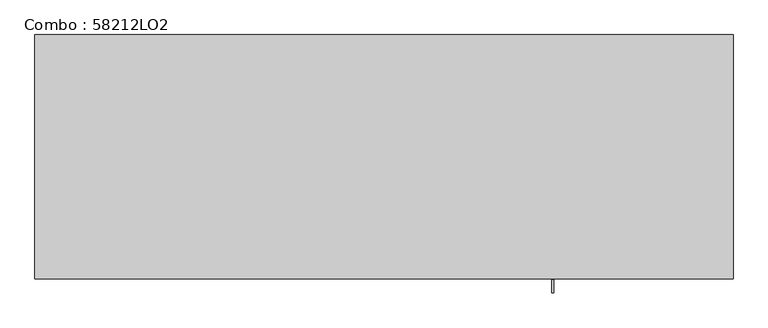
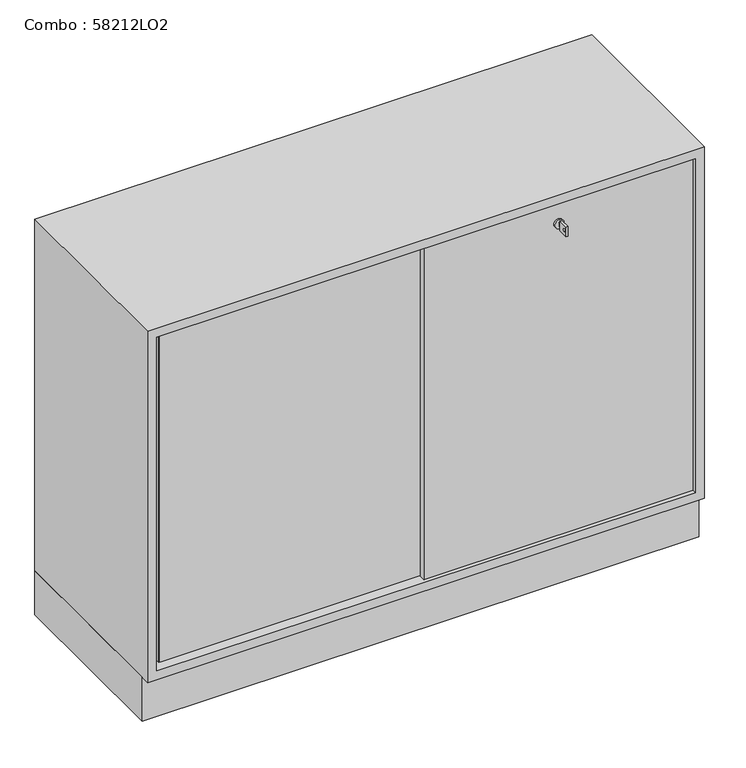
"""IFC4 building model written with IfcOpenShell, lengths in millimetres: furniture geometry, Combo : 58212LO2."""

from ifc_helpers import new_model, si_unit, point, frame, frame_2d, origin, origin_with_axes, place, context, project, spatial, polyline, circle_curve, trimmed, segment, composite_curve, outline, extrude, faceted_brep, source, transform, mapped, element, save


def combo_58212lo2_bfeb9648(model_context):
    return source(origin(), model_context, "Body", "SolidModel", [
        extrude(outline(polyline([(-600.0, -400.0), (-600.0, 0.0), (600.0, 0.0), (600.0, -400.0), (-600.0, -400.0)])), origin_with_axes(), (0.0, 0.0, 1.0), 100.0),
        extrude(outline(composite_curve([segment(trimmed(circle_curve(frame_2d((830.0, 290.0)), 10.0), [point((830.0, 280.0))], [point((830.0, 300.0))], False, "CARTESIAN"), True, "CONTINUOUS"), segment(trimmed(circle_curve(frame_2d((830.0, 290.0)), 10.0), [point((830.0, 300.0))], [point((830.0, 280.0))], False, "CARTESIAN"), True, "CONTINUOUS")], self_intersect=False)), frame((0.0, -416.0, 0.0), z_axis=(0.0, 1.0, 0.0), x_axis=(0.0, 0.0, 1.0)), (0.0, 0.0, 1.0), 4.0),
        extrude(outline(polyline([(-444.0, 819.014113), (-444.0, 841.0), (-422.0, 841.0), (-422.0, 819.014113), (-444.0, 819.014113)]), holes=[composite_curve([segment(trimmed(circle_curve(frame_2d((-437.75, 830.0070565)), 3.2230706), [point((-437.75, 833.2301271))], [point((-437.75, 826.7839859))], True, "CARTESIAN"), True, "CONTINUOUS"), segment(trimmed(circle_curve(frame_2d((-437.75, 830.0070565)), 3.2230706), [point((-437.75, 826.7839859))], [point((-437.75, 833.2301271))], True, "CARTESIAN"), True, "CONTINUOUS")], self_intersect=False)]), frame((288.0, 0.0, 0.0), z_axis=(1.0, 0.0, 0.0), x_axis=(0.0, 1.0, 0.0)), (0.0, 0.0, 1.0), 4.0416064),
        extrude(outline(polyline([(291.0416064, -422.0), (289.0, -422.0), (289.0, -416.0), (291.0416064, -416.0), (291.0416064, -422.0)])), frame((0.0, 0.0, 826.014113), z_axis=(0.0, 0.0, 1.0), x_axis=(1.0, 0.0, 0.0)), (0.0, 0.0, 1.0), 7.985887),
        extrude(outline(polyline([(-578.0478528, -398.0), (-580.0, -398.0), (-580.0, -386.0), (580.0, -386.0), (580.0, -412.0), (0.0, -412.0), (0.0, -400.0), (8.9521472, -400.0), (8.9521472, -398.0), (-561.0478528, -398.0), (-563.0478528, -398.0), (-563.0478528, -388.0), (-578.0478528, -388.0), (-578.0478528, -398.0)])), frame((0.0, 0.0, 120.0), z_axis=(0.0, 0.0, 1.0), x_axis=(1.0, 0.0, 0.0)), (0.0, 0.0, 1.0), 760.0),
        faceted_brep([(600.0, 0.0, 900.0), (-600.0, 0.0, 900.0), (-600.0, -420.0, 900.0), (600.0, -420.0, 900.0), (-600.0, 0.0, 100.0), (600.0, 0.0, 100.0), (600.0, -420.0, 100.0), (-600.0, -420.0, 100.0), (-580.0, -420.0, 880.0), (580.0, -420.0, 880.0), (580.0, -420.0, 120.0), (-580.0, -420.0, 120.0), (-580.0, -386.0, 880.0), (580.0, -386.0, 880.0), (-580.0, -386.0, 120.0), (580.0, -386.0, 120.0)], [[[0, 1, 2, 3]], [[4, 5, 6, 7]], [[1, 0, 5, 4]], [[2, 1, 4, 7]], [[3, 2, 7, 6], [8, 9, 10, 11]], [[0, 3, 6, 5]], [[12, 13, 9, 8]], [[14, 11, 10, 15]], [[9, 13, 15, 10]], [[12, 8, 11, 14]], [[13, 12, 14, 15]]]),
    ])


if __name__ == "__main__":
    model = new_model("IFC4")
    model_context = context("Model", 3, world=origin())
    ifc_project = project(units=[si_unit("LENGTHUNIT", "METRE", prefix="MILLI")], contexts=[model_context])
    site = spatial("IfcSite", under=ifc_project)
    building = spatial("IfcBuilding", under=site)
    placement = place(None, origin())
    combo_58212lo2_shape = combo_58212lo2_bfeb9648(model_context)
    element("IfcFurniture", 1, ObjectType="Combo : 58212LO2", at=placement, inside=building, context=model_context, shape_type="MappedRepresentation", body=[
        mapped(combo_58212lo2_shape, transform((0.0, 0.0, 0.0), x_axis=(1.0, 0.0, 0.0), y_axis=(0.0, 1.0, 0.0), z_axis=(0.0, 0.0, 1.0))),
    ])
    save(model, "model.ifc")
